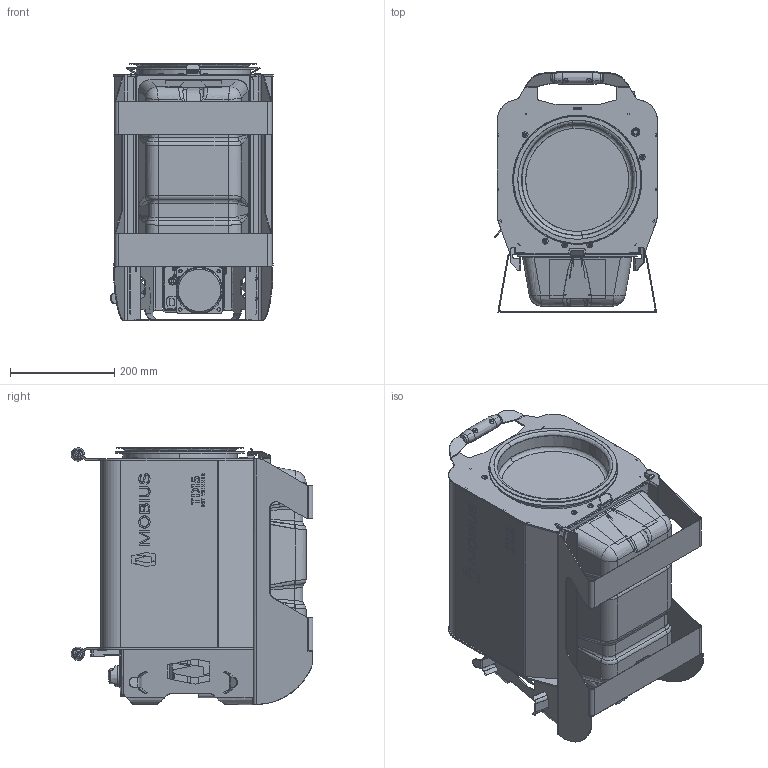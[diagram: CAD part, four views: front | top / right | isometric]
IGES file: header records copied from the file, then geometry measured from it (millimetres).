
Start section: SolidWorks IGES file using analytic representation for surfaces
Global section: file name: C:\Users\Keith.Teeple\Documents\Defeatured Machines\TD15\TD15.IGS; native system: SolidWorks 2023; preprocessor: SolidWorks 2023; author: Keith.Teeple; date: 250204.163144; units: inch
Bounding box: 312.63 x 463.55 x 493.25 mm (x, y, z)
Surface area: 1808612.9 mm2 (no closed solid volume)
Topology: 0 solids, 0 shells, 1189 faces, 18103 edges, 18084 vertices
Faces by surface type: bspline 727, revolution 462
